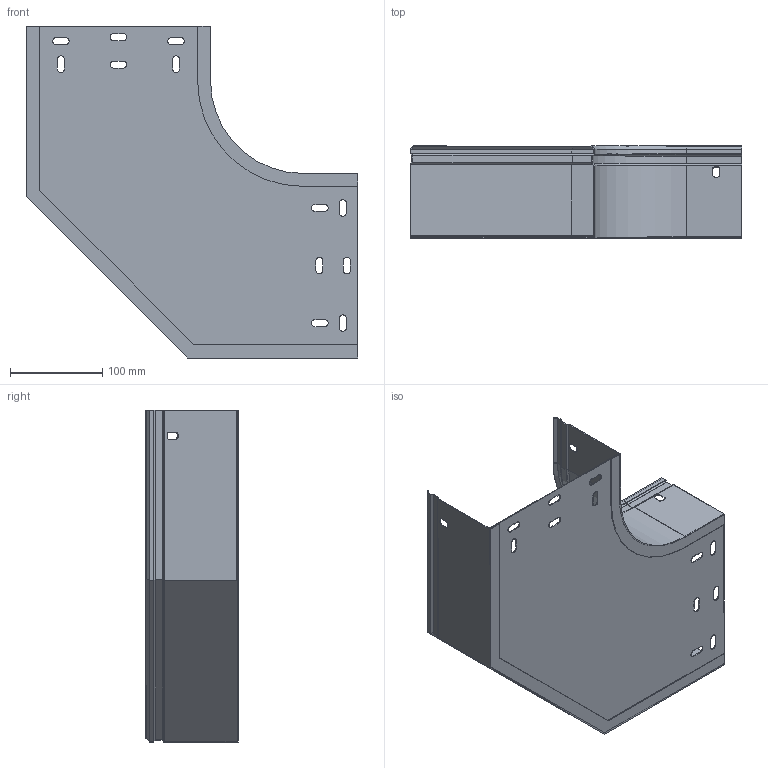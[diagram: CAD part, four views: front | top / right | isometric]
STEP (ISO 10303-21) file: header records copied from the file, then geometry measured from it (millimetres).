
FILE_DESCRIPTION (( 'STEP AP203' ), '1' );
FILE_NAME ('ERE_CPERC 200x100.step', '2023-07-27T18:48:03', ( '' ), ( '' ), 'SwSTEP 2.0', 'SolidWorks 2022', '' );
FILE_SCHEMA (( 'CONFIG_CONTROL_DESIGN' ));
Length unit declared in the file: millimetre
Products named in the file (4): ERE_BASE CP_200; ERE_LATERAL EXT CP_200 x 100; ERE_CPERC 200x100; ERE_LATERAL INT CP_100
Assembly tree (3 placements, depth 2):
  ERE_CPERC 200x100
    ERE_BASE CP_200
    ERE_LATERAL INT CP_100
    ERE_LATERAL EXT CP_200 x 100
Bounding box: 360.36 x 100 x 360.36 mm (x, y, z)
Volume: 192114 mm3; surface area: 388446.8 mm2
Topology: 3 solids, 3 shells, 172 faces, 450 edges, 284 vertices
Faces by surface type: plane 119, cylinder 46, cone 7
Entity records: 5682 total; most frequent: CARTESIAN_POINT 912, DIRECTION 900, ORIENTED_EDGE 900, EDGE_CURVE 450, LINE 356, VECTOR 356, VERTEX_POINT 284, AXIS2_PLACEMENT_3D 272
